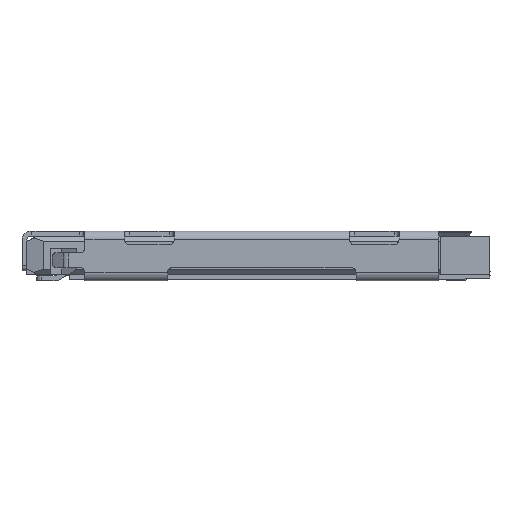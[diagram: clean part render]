
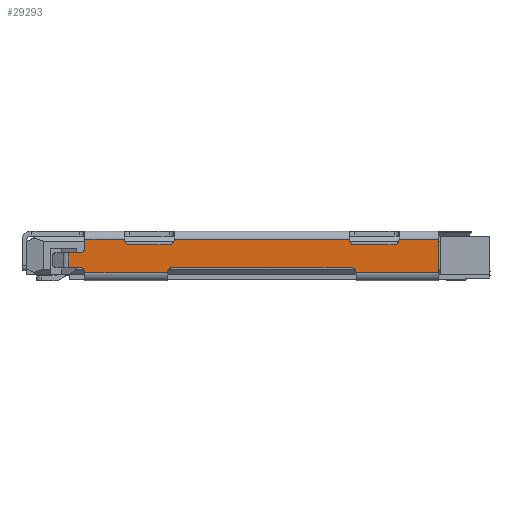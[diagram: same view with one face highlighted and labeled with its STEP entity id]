
A CAD part, left-side view. The second image highlights one B-rep face of the part: STEP entity #29293.
In plain terms, the highlighted planar face has unit normal (-1, 0, 0).
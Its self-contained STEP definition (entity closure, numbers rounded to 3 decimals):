
#69=DIRECTION('',(0.,1.,0.));
#70=VECTOR('',#69,2.5);
#71=CARTESIAN_POINT('',(0.,9.75,
-1.1));
#72=LINE('',#71,#70);
#78=DIRECTION('',(0.,0.,-1.));
#79=VECTOR('',#78,0.005);
#80=CARTESIAN_POINT('',(0.,9.75,
-1.095));
#81=LINE('',#80,#79);
#201=DIRECTION('',(0.,1.,0.));
#202=VECTOR('',#201,0.35);
#203=CARTESIAN_POINT('',(0.,12.4,
-0.5));
#204=LINE('',#203,#202);
#205=CARTESIAN_POINT('',(0.,12.4,
-0.35));
#206=DIRECTION('',(1.,0.,0.));
#207=DIRECTION('',(0.,-1.,0.));
#208=AXIS2_PLACEMENT_3D('',#205,#206,#207);
#210=DIRECTION('',(0.,0.,-1.));
#211=VECTOR('',#210,0.25);
#212=CARTESIAN_POINT('',(0.,12.25,
-0.1));
#213=LINE('',#212,#211);
#214=DIRECTION('',(0.,0.,1.));
#215=VECTOR('',#214,0.008);
#216=CARTESIAN_POINT('',(0.,11.05,
-0.108));
#217=LINE('',#216,#215);
#218=CARTESIAN_POINT('',(0.,10.9,
-0.108));
#219=DIRECTION('',(1.,0.,0.));
#220=DIRECTION('',(0.,0.,-1.));
#221=AXIS2_PLACEMENT_3D('',#218,#219,#220);
#223=CARTESIAN_POINT('',(0.,9.7,
-0.108));
#224=DIRECTION('',(1.,0.,0.));
#225=DIRECTION('',(0.,-1.,0.));
#226=AXIS2_PLACEMENT_3D('',#223,#224,#225);
#228=CARTESIAN_POINT('',(0.,4.1,
-0.108));
#229=DIRECTION('',(1.,0.,0.));
#230=DIRECTION('',(0.,0.,-1.));
#231=AXIS2_PLACEMENT_3D('',#228,#229,#230);
#233=CARTESIAN_POINT('',(0.,2.9,
-0.108));
#234=DIRECTION('',(1.,0.,0.));
#235=DIRECTION('',(0.,-1.,0.));
#236=AXIS2_PLACEMENT_3D('',#233,#234,#235);
#238=CARTESIAN_POINT('',(0.,4.2,
-1.095));
#239=DIRECTION('',(1.,0.,0.));
#240=DIRECTION('',(0.,0.,1.));
#241=AXIS2_PLACEMENT_3D('',#238,#239,#240);
#243=CARTESIAN_POINT('',(0.,9.6,
-1.095));
#244=DIRECTION('',(1.,0.,0.));
#245=DIRECTION('',(0.,1.,0.));
#246=AXIS2_PLACEMENT_3D('',#243,#244,#245);
#248=CARTESIAN_POINT('',(0.,12.4,
-1.1));
#249=DIRECTION('',(1.,0.,0.));
#250=DIRECTION('',(0.,0.,1.));
#251=AXIS2_PLACEMENT_3D('',#248,#249,#250);
#328=DIRECTION('',(0.,1.,0.));
#329=VECTOR('',#328,0.35);
#330=CARTESIAN_POINT('',(0.,12.4,
-0.95));
#331=LINE('',#330,#329);
#341=DIRECTION('',(0.,0.,1.));
#342=VECTOR('',#341,0.45);
#343=CARTESIAN_POINT('',(0.,12.75,
-0.95));
#344=LINE('',#343,#342);
#1203=DIRECTION('',(0.,0.,-1.));
#1204=VECTOR('',#1203,1.);
#1205=CARTESIAN_POINT('',(0.,1.55,
-0.1));
#1206=LINE('',#1205,#1204);
#1218=DIRECTION('',(0.,-1.,0.));
#1219=VECTOR('',#1218,1.2);
#1220=CARTESIAN_POINT('',(0.,2.75,
-0.1));
#1221=LINE('',#1220,#1219);
#1231=DIRECTION('',(0.,0.,1.));
#1232=VECTOR('',#1231,0.008);
#1233=CARTESIAN_POINT('',(0.,2.75,
-0.108));
#1234=LINE('',#1233,#1232);
#1295=DIRECTION('',(0.,0.,-1.));
#1296=VECTOR('',#1295,0.008);
#1297=CARTESIAN_POINT('',(0.,4.25,
-0.1));
#1298=LINE('',#1297,#1296);
#1329=DIRECTION('',(0.,0.,1.));
#1330=VECTOR('',#1329,0.008);
#1331=CARTESIAN_POINT('',(0.,9.55,
-0.108));
#1332=LINE('',#1331,#1330);
#1380=DIRECTION('',(0.,-1.,0.));
#1381=VECTOR('',#1380,5.3);
#1382=CARTESIAN_POINT('',(0.,9.55,
-0.1));
#1383=LINE('',#1382,#1381);
#1392=DIRECTION('',(0.,-1.,0.));
#1393=VECTOR('',#1392,1.2);
#1394=CARTESIAN_POINT('',(0.,10.9,
-0.258));
#1395=LINE('',#1394,#1393);
#1416=DIRECTION('',(0.,-1.,0.));
#1417=VECTOR('',#1416,1.2);
#1418=CARTESIAN_POINT('',(0.,4.1,
-0.258));
#1419=LINE('',#1418,#1417);
#13964=DIRECTION('',(0.,-1.,0.));
#13965=VECTOR('',#13964,1.2);
#13966=CARTESIAN_POINT('',(0.,12.25,
-0.1));
#13967=LINE('',#13966,#13965);
#21528=DIRECTION('',(0.,0.,1.));
#21529=VECTOR('',#21528,0.005);
#21530=CARTESIAN_POINT('',(0.,4.05,
-1.1));
#21531=LINE('',#21530,#21529);
#21536=DIRECTION('',(0.,1.,0.));
#21537=VECTOR('',#21536,2.5);
#21538=CARTESIAN_POINT('',(0.,1.55,
-1.1));
#21539=LINE('',#21538,#21537);
#21699=DIRECTION('',(0.,1.,0.));
#21700=VECTOR('',#21699,5.4);
#21701=CARTESIAN_POINT('',(0.,4.2,
-0.945));
#21702=LINE('',#21701,#21700);
#25711=CARTESIAN_POINT('',(0.,9.6,
-0.945));
#25712=VERTEX_POINT('',#25711);
#25713=CARTESIAN_POINT('',(0.,9.75,
-1.095));
#25714=VERTEX_POINT('',#25713);
#25870=CARTESIAN_POINT('',(0.,12.4,
-0.95));
#25871=CARTESIAN_POINT('',(0.,12.25,
-1.1));
#25872=VERTEX_POINT('',#25870);
#25873=VERTEX_POINT('',#25871);
#25946=CARTESIAN_POINT('',(0.,12.75,
-0.5));
#25947=VERTEX_POINT('',#25946);
#25948=CARTESIAN_POINT('',(0.,12.75,
-0.95));
#25949=VERTEX_POINT('',#25948);
#26040=CARTESIAN_POINT('',(0.,2.9,
-0.258));
#26041=VERTEX_POINT('',#26040);
#26042=CARTESIAN_POINT('',(0.,2.75,
-0.108));
#26043=VERTEX_POINT('',#26042);
#26046=CARTESIAN_POINT('',(0.,4.1,
-0.258));
#26047=VERTEX_POINT('',#26046);
#26086=CARTESIAN_POINT('',(0.,12.4,
-0.5));
#26087=VERTEX_POINT('',#26086);
#26088=CARTESIAN_POINT('',(0.,9.75,
-1.1));
#26089=VERTEX_POINT('',#26088);
#26090=CARTESIAN_POINT('',(0.,4.2,
-0.945));
#26091=VERTEX_POINT('',#26090);
#26092=CARTESIAN_POINT('',(0.,4.05,
-1.095));
#26093=VERTEX_POINT('',#26092);
#26094=CARTESIAN_POINT('',(0.,4.05,
-1.1));
#26095=VERTEX_POINT('',#26094);
#26096=CARTESIAN_POINT('',(0.,1.55,
-1.1));
#26097=VERTEX_POINT('',#26096);
#26098=CARTESIAN_POINT('',(0.,1.55,
-0.1));
#26099=VERTEX_POINT('',#26098);
#26100=CARTESIAN_POINT('',(0.,2.75,
-0.1));
#26101=VERTEX_POINT('',#26100);
#26102=CARTESIAN_POINT('',(0.,4.25,
-0.108));
#26103=VERTEX_POINT('',#26102);
#26104=CARTESIAN_POINT('',(0.,4.25,
-0.1));
#26105=VERTEX_POINT('',#26104);
#26106=CARTESIAN_POINT('',(0.,9.55,
-0.1));
#26107=VERTEX_POINT('',#26106);
#26108=CARTESIAN_POINT('',(0.,9.55,
-0.108));
#26109=VERTEX_POINT('',#26108);
#26110=CARTESIAN_POINT('',(0.,9.7,
-0.258));
#26111=VERTEX_POINT('',#26110);
#26112=CARTESIAN_POINT('',(0.,10.9,
-0.258));
#26113=VERTEX_POINT('',#26112);
#26114=CARTESIAN_POINT('',(0.,11.05,
-0.108));
#26115=VERTEX_POINT('',#26114);
#26116=CARTESIAN_POINT('',(0.,11.05,
-0.1));
#26117=VERTEX_POINT('',#26116);
#26118=CARTESIAN_POINT('',(0.,12.25,
-0.1));
#26119=VERTEX_POINT('',#26118);
#26120=CARTESIAN_POINT('',(0.,12.25,
-0.35));
#26121=VERTEX_POINT('',#26120);
#29234=CARTESIAN_POINT('',(0.,7.15,
-0.6));
#29235=DIRECTION('',(1.,0.,0.));
#29236=DIRECTION('',(0.,1.,0.));
#29237=AXIS2_PLACEMENT_3D('',#29234,#29235,#29236);
#29238=PLANE('',#29237);
#29240=ORIENTED_EDGE('',*,*,#29239,.F.);
#29242=ORIENTED_EDGE('',*,*,#29241,.F.);
#29244=ORIENTED_EDGE('',*,*,#29243,.F.);
#29246=ORIENTED_EDGE('',*,*,#29245,.T.);
#29248=ORIENTED_EDGE('',*,*,#29247,.F.);
#29250=ORIENTED_EDGE('',*,*,#29249,.F.);
#29252=ORIENTED_EDGE('',*,*,#29251,.T.);
#29254=ORIENTED_EDGE('',*,*,#29253,.F.);
#29256=ORIENTED_EDGE('',*,*,#29255,.T.);
#29258=ORIENTED_EDGE('',*,*,#29257,.T.);
#29260=ORIENTED_EDGE('',*,*,#29259,.T.);
#29262=ORIENTED_EDGE('',*,*,#29261,.F.);
#29264=ORIENTED_EDGE('',*,*,#29263,.T.);
#29266=ORIENTED_EDGE('',*,*,#29265,.F.);
#29268=ORIENTED_EDGE('',*,*,#29267,.T.);
#29270=ORIENTED_EDGE('',*,*,#29269,.T.);
#29272=ORIENTED_EDGE('',*,*,#29271,.T.);
#29274=ORIENTED_EDGE('',*,*,#29273,.T.);
#29276=ORIENTED_EDGE('',*,*,#29275,.T.);
#29278=ORIENTED_EDGE('',*,*,#29277,.F.);
#29280=ORIENTED_EDGE('',*,*,#29279,.T.);
#29282=ORIENTED_EDGE('',*,*,#29281,.F.);
#29283=ORIENTED_EDGE('',*,*,#29063,.T.);
#29284=ORIENTED_EDGE('',*,*,#29047,.T.);
#29286=ORIENTED_EDGE('',*,*,#29285,.F.);
#29288=ORIENTED_EDGE('',*,*,#29287,.T.);
#29290=ORIENTED_EDGE('',*,*,#29289,.T.);
#29291=EDGE_LOOP('',(#29240,#29242,#29244,#29246,#29248,#29250,#29252,#29254,
#29256,#29258,#29260,#29262,#29264,#29266,#29268,#29270,#29272,#29274,#29276,
#29278,#29280,#29282,#29283,#29284,#29286,#29288,#29290));
#29292=FACE_OUTER_BOUND('',#29291,.F.);
#209=CIRCLE('',#208,0.15);
#222=CIRCLE('',#221,0.15);
#227=CIRCLE('',#226,0.15);
#232=CIRCLE('',#231,0.15);
#237=CIRCLE('',#236,0.15);
#242=CIRCLE('',#241,0.15);
#247=CIRCLE('',#246,0.15);
#252=CIRCLE('',#251,0.15);
#29047=EDGE_CURVE('',#26089,#25873,#72,.T.);
#29063=EDGE_CURVE('',#25714,#26089,#81,.T.);
#29239=EDGE_CURVE('',#26087,#25947,#204,.T.);
#29241=EDGE_CURVE('',#26121,#26087,#209,.T.);
#29243=EDGE_CURVE('',#26119,#26121,#213,.T.);
#29245=EDGE_CURVE('',#26119,#26117,#13967,.T.);
#29247=EDGE_CURVE('',#26115,#26117,#217,.T.);
#29249=EDGE_CURVE('',#26113,#26115,#222,.T.);
#29251=EDGE_CURVE('',#26113,#26111,#1395,.T.);
#29253=EDGE_CURVE('',#26109,#26111,#227,.T.);
#29255=EDGE_CURVE('',#26109,#26107,#1332,.T.);
#29257=EDGE_CURVE('',#26107,#26105,#1383,.T.);
#29259=EDGE_CURVE('',#26105,#26103,#1298,.T.);
#29261=EDGE_CURVE('',#26047,#26103,#232,.T.);
#29263=EDGE_CURVE('',#26047,#26041,#1419,.T.);
#29265=EDGE_CURVE('',#26043,#26041,#237,.T.);
#29267=EDGE_CURVE('',#26043,#26101,#1234,.T.);
#29269=EDGE_CURVE('',#26101,#26099,#1221,.T.);
#29271=EDGE_CURVE('',#26099,#26097,#1206,.T.);
#29273=EDGE_CURVE('',#26097,#26095,#21539,.T.);
#29275=EDGE_CURVE('',#26095,#26093,#21531,.T.);
#29277=EDGE_CURVE('',#26091,#26093,#242,.T.);
#29279=EDGE_CURVE('',#26091,#25712,#21702,.T.);
#29281=EDGE_CURVE('',#25714,#25712,#247,.T.);
#29285=EDGE_CURVE('',#25872,#25873,#252,.T.);
#29287=EDGE_CURVE('',#25872,#25949,#331,.T.);
#29289=EDGE_CURVE('',#25949,#25947,#344,.T.);
#29293=ADVANCED_FACE('',(#29292),#29238,.F.);
